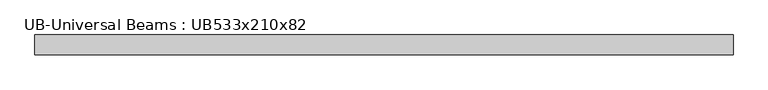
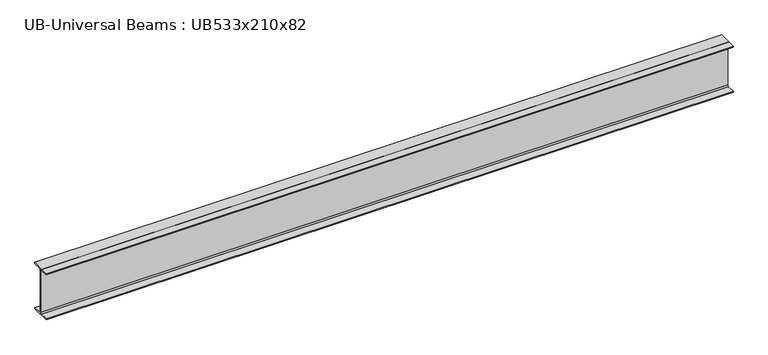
"""IFC4 building model written with IfcOpenShell, lengths in millimetres: beam geometry, UB-Universal Beams : UB533x210x82."""

from ifc_helpers import new_model, si_unit, point, frame, frame_2d, origin, place, context, project, spatial, polyline, circle_curve, trimmed, segment, composite_curve, outline, extrude, source, transform, mapped, element, save


def ub_universal_beams_ub533x210x82_892b370d(model_context):
    return source(origin(), model_context, "Body", "SweptSolid", [
        extrude(outline(composite_curve([segment(polyline([(104.4, -250.95), (104.4, -264.15), (-104.4, -264.15), (-104.4, -250.95), (-17.5, -250.95)]), True, "CONTINUOUS"), segment(trimmed(circle_curve(frame_2d((-17.5, -238.25)), 12.7), [point((-17.5, -250.95))], [point((-4.8, -238.25))], True, "CARTESIAN"), True, "CONTINUOUS"), segment(polyline([(-4.8, -238.25), (-4.8, 238.25)]), True, "CONTINUOUS"), segment(trimmed(circle_curve(frame_2d((-17.5, 238.25)), 12.7), [point((-4.8, 238.25))], [point((-17.5, 250.95))], True, "CARTESIAN"), True, "CONTINUOUS"), segment(polyline([(-17.5, 250.95), (-104.4, 250.95), (-104.4, 264.15), (104.4, 264.15), (104.4, 250.95), (17.5, 250.95)]), True, "CONTINUOUS"), segment(trimmed(circle_curve(frame_2d((17.5, 238.25)), 12.7), [point((17.5, 250.95))], [point((4.8, 238.25))], True, "CARTESIAN"), True, "CONTINUOUS"), segment(polyline([(4.8, 238.25), (4.8, -238.25)]), True, "CONTINUOUS"), segment(trimmed(circle_curve(frame_2d((17.5, -238.25)), 12.7), [point((4.8, -238.25))], [point((17.5, -250.95))], True, "CARTESIAN"), True, "CONTINUOUS"), segment(polyline([(17.5, -250.95), (104.4, -250.95)]), True, "CONTINUOUS")], self_intersect=False)), frame((-3699.1, 0.0, 0.0), z_axis=(1.0, 0.0, 0.0), x_axis=(0.0, 1.0, 0.0)), (0.0, 0.0, 1.0), 7398.2),
    ])


if __name__ == "__main__":
    model = new_model("IFC4")
    model_context = context("Model", 3, world=origin())
    ifc_project = project(units=[si_unit("LENGTHUNIT", "METRE", prefix="MILLI")], contexts=[model_context])
    site = spatial("IfcSite", under=ifc_project)
    building = spatial("IfcBuilding", under=site)
    placement = place(None, origin())
    ub_universal_beams_ub533x210x82_shape = ub_universal_beams_ub533x210x82_892b370d(model_context)
    element("IfcBeam", 1, ObjectType="UB-Universal Beams : UB533x210x82", at=placement, inside=building, context=model_context, shape_type="MappedRepresentation", body=[
        mapped(ub_universal_beams_ub533x210x82_shape, transform((0.0, 0.0, 0.0), x_axis=(1.0, 0.0, 0.0), y_axis=(0.0, 1.0, 0.0), z_axis=(0.0, 0.0, 1.0))),
    ])
    save(model, "model.ifc")
